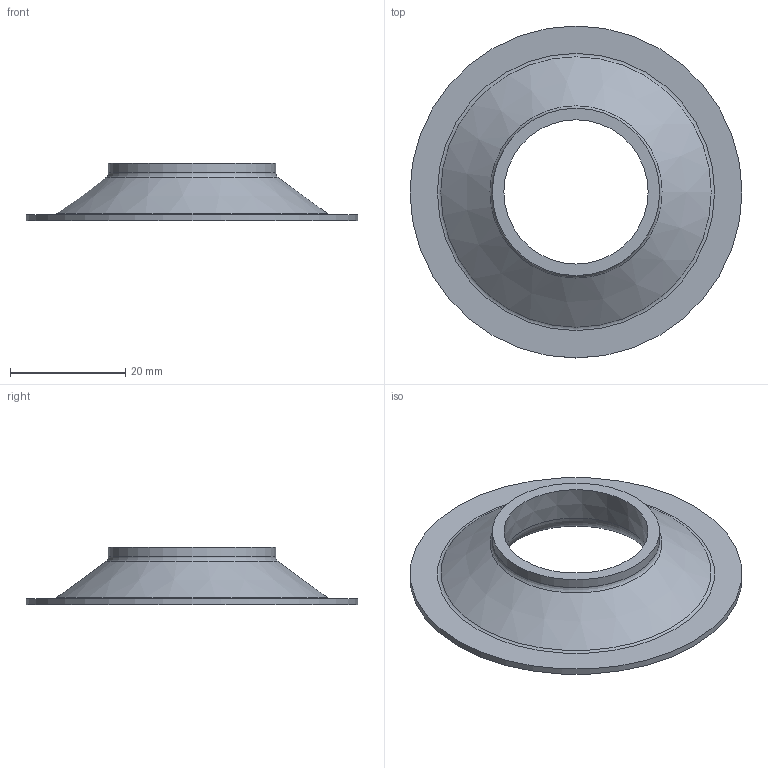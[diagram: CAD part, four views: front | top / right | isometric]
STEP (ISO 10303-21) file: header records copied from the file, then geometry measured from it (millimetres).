
FILE_DESCRIPTION( ('This file contains a STEP AP42 implementation' ,'as created by ZW3D STEP Interface translator.') ,'2;1' );
FILE_NAME( 'KM-25.stp' ,'26 5 8. 75214', (''), ('ZWCAD Software Co.'), 'Version 1.0', 'ZW3D to STEP translator', '' );
FILE_SCHEMA(('AP242_MANAGED_MODEL_BASED_3D_ENGINEERING_MIM_LF { 1 0 10303 442 1 1 4 }'));
Length unit declared in the file: millimetre
Products named in the file (1): 0
Bounding box: 57.5 x 57.5 x 10 mm (x, y, z)
Volume: 6618.4 mm3; surface area: 5497.1 mm2
Topology: 1 solids, 1 shells, 10 faces, 17 edges, 10 vertices
Faces by surface type: plane 3, torus 3, cylinder 2, cone 2
Full cylindrical faces by diameter (mm): 29 x1, 57.5 x1
Entity records: 276 total; most frequent: DIRECTION 52, CARTESIAN_POINT 38, ORIENTED_EDGE 34, AXIS2_PLACEMENT_3D 24, EDGE_CURVE 17, CIRCLE 13, EDGE_LOOP 13, VERTEX_POINT 10
